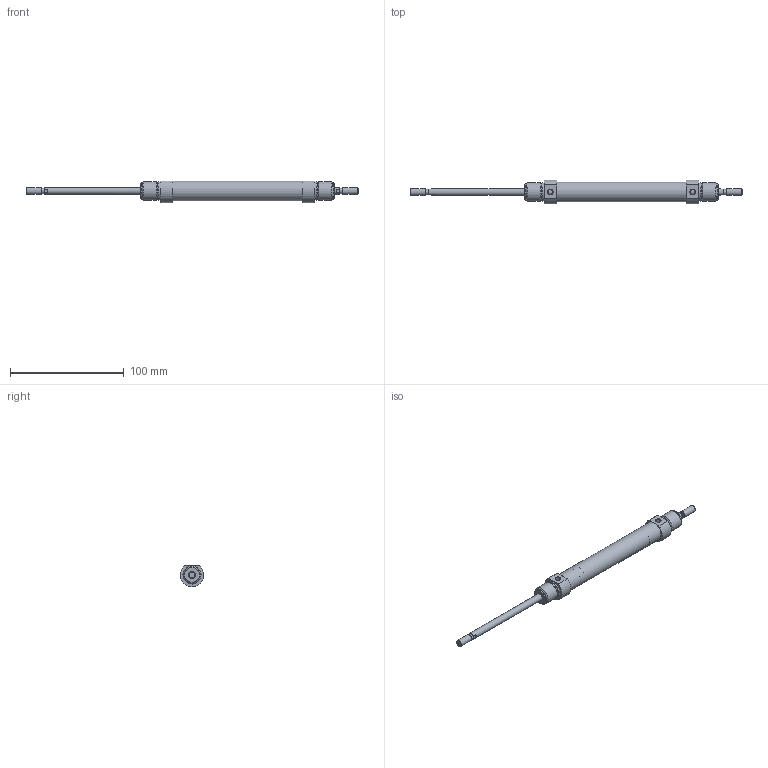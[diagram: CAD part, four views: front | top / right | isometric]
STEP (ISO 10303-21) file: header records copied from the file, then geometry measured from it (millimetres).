
FILE_DESCRIPTION( ( 'STEP AP203' ), '1' );
FILE_NAME( '//expscmdclustefs.cadenas.external/client_exchange/iodir/jobs/output/wkb68411743_no0/STEP/M101-016-0080--__0__2_03.stp', ' ', ( ' ' ), ( ' ' ), 'PSStep 15.0.47', 'PARTsolutions', ' ' );
FILE_SCHEMA( ( 'CONFIG_CONTROL_DESIGN' ) );
Length unit declared in the file: millimetre
Products named in the file (3): M101-016-0080-- [0]; HI_M101-016-0080---[0]-z; HI_M101-016-0080---[0]-k
Assembly tree (2 placements, depth 2):
  M101-016-0080-- [0]
    HI_M101-016-0080---[0]-z
    HI_M101-016-0080---[0]-k
Bounding box: 292 x 20.94 x 19.09 mm (x, y, z)
Volume: 29999.4 mm3; surface area: 22581.4 mm2
Topology: 2 solids, 2 shells, 67 faces, 135 edges, 82 vertices
Faces by surface type: plane 28, cylinder 23, cone 14, torus 2
Full cylindrical faces by diameter (mm): 4.134 x2, 4.773 x2, 6 x6, 14.16 x4, 16 x6, 17.3 x1
Entity records: 1730 total; most frequent: CARTESIAN_POINT 334, DIRECTION 292, ORIENTED_EDGE 196, AXIS2_PLACEMENT_3D 132, EDGE_LOOP 116, EDGE_CURVE 98, FACE_OUTER_BOUND 90, VERTEX_POINT 78
